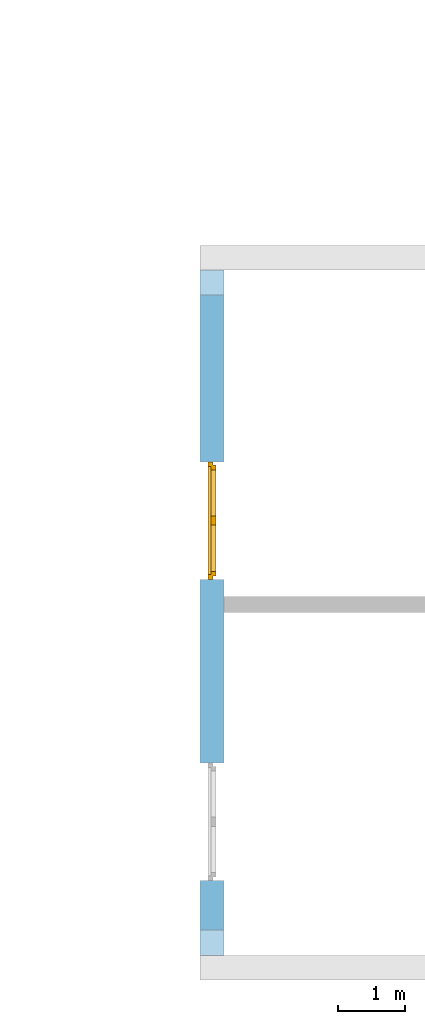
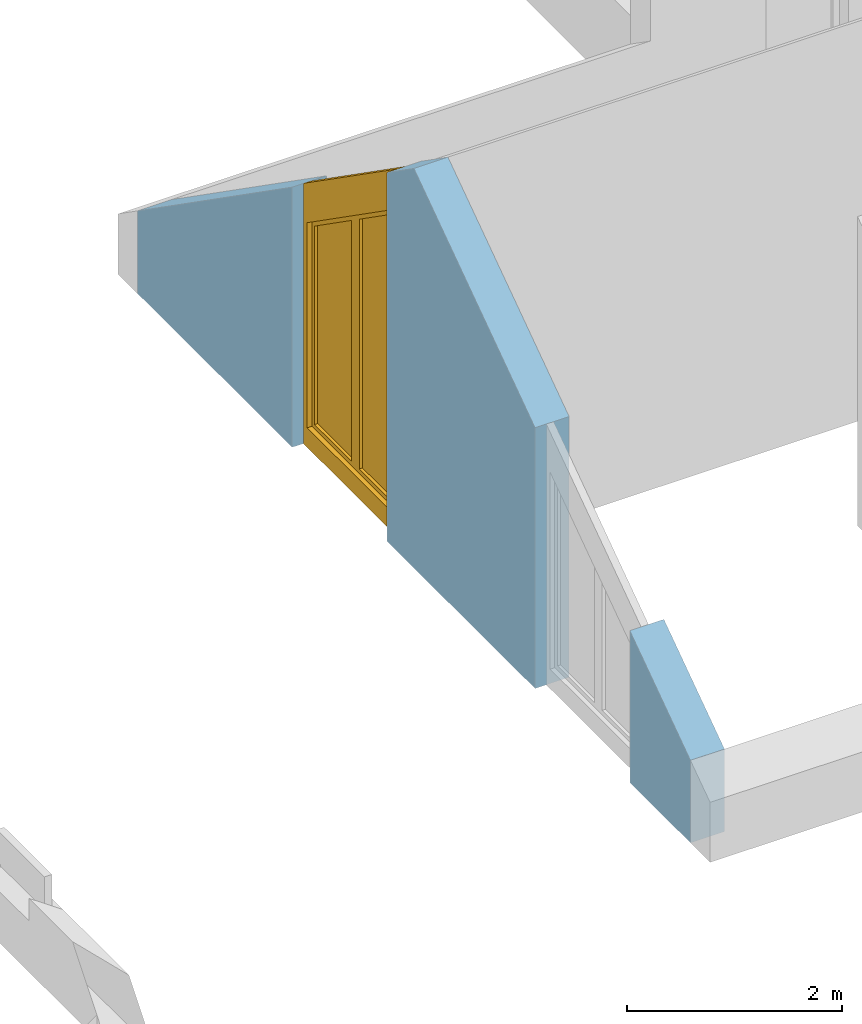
# One storey, part 12 of 23: 1 window, 2 openings, plus 1 element that does not belong to this part.
"""IFC2X3 building model written with IfcOpenShell, lengths in millimetres."""

from ifc_helpers import new_model, entity, si_unit, converted_unit, frame, frame_2d, origin, origin_with_axes, place, context, subcontext, project, spatial, polyline, rectangle, outline, extrude, clip, bounded_halfspace, faceted_brep, material, layer, layer_set, layer_usage, type_object, element, fill, save


model = new_model("IFC2X3")

# Units and contexts
model_context = context("Model", 3, precision=1e-05, world=origin())
body_context = subcontext(model_context, "Body", "Model", "MODEL_VIEW")
ifc_project = project(units=[si_unit("LENGTHUNIT", "METRE", prefix="MILLI"), converted_unit("PLANEANGLEUNIT", "DEGREE", entity("IfcPlaneAngleMeasure", 0.0174532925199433), si_unit("PLANEANGLEUNIT", "RADIAN"), dimensions=[0, 0, 0, 0, 0, 0, 0]), si_unit("AREAUNIT", "SQUARE_METRE"), si_unit("VOLUMEUNIT", "CUBIC_METRE")], contexts=[model_context])

# Building, storey
building_placement = place(None, origin())
building = spatial("IfcBuilding", under=ifc_project, at=building_placement, Name="Gebäude", CompositionType="ELEMENT")
storey_placement = place(building_placement, frame((0.0, 0.0, 5580.0), z_axis=(0.0, 0.0, 1.0), x_axis=(1.0, 0.0, 0.0)))
storey = spatial("IfcBuildingStorey", under=building, at=storey_placement, Name="DG.- Grundriss", CompositionType="ELEMENT", Elevation=5580.0)

# Wall, openings, window
ifc_material_1 = material(Name="Poroton")
ifc_layer = layer(ifc_material_1, 365.0)
ifc_layer_set = layer_set([ifc_layer])
ifc_layer_usage = layer_usage(ifc_layer_set, "AXIS2", "POSITIVE", 0.0)
wall_placement = place(storey_placement, frame((148357.7928067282, 135909.8877324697, 0.0), z_axis=(0.0, 0.0, 1.0), x_axis=(1.70032115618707e-14, -1.0, 0.0)))
wall = element("IfcWallStandardCase", 1, at=wall_placement, inside=storey, material=ifc_layer_usage, Name="<Unnamed Element>", context=body_context, shape_type="Clipping", body=[
    clip(clip(extrude(rectangle(XDim=10269.99999999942, YDim=365.0, at=frame_2d((5134.999999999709, 182.5), x_axis=(1.0, 0.0))), origin_with_axes(), (0.0, 0.0, 1.0), 4531.141460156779), bounded_halfspace(frame((6.206172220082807e-12, 365.0, 935.5757514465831), z_axis=(0.5735764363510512, -1.115129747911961e-14, -0.8191520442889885), x_axis=(-1.70032115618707e-14, -1.0, 0.0)), True, origin(), polyline([(6.206172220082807e-12, 365.0), (0.0, 0.0), (5134.99999999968, 4.911384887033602e-25), (5135.000000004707, 365.0), (6.206172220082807e-12, 365.0)]))), bounded_halfspace(frame((10270.00000000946, 365.0, 935.5757514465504), z_axis=(-0.5735764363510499, 1.578219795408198e-11, -0.8191520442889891), x_axis=(-0.819152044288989, 1.369778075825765e-26, 0.5735764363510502)), True, origin(), polyline([(10270.00000000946, 365.0), (5135.000000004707, 365.0), (5134.99999999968, 4.911384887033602e-25), (10269.99999999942, 0.0), (10270.00000000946, 365.0)]))),
])
opening_1_placement = place(wall_placement, frame((2874.999999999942, -2.54658516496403e-11, 0.0), z_axis=(0.0, 1.0, 0.0), x_axis=(0.0, 0.0, 1.0)))
opening_1 = element("IfcOpeningElement", 2, at=opening_1_placement, cuts=wall, Name="Fensteröffnung", ObjectType="Opening", context=body_context, shape_type="SweptSolid", body=[
    extrude(outline(polyline([(2948.672423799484, 0.0), (0.0, 0.0), (0.0, 1760.0), (4181.037691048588, 1760.0), (2948.672423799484, 0.0)])), origin_with_axes(), (0.0, 0.0, 1.0), 365.0),
])
opening_2_placement = place(wall_placement, frame((7384.999999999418, -9.851646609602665e-11, 0.0), z_axis=(0.0, 1.0, 0.0), x_axis=(0.0, 0.0, 1.0)))
element("IfcOpeningElement", 3, at=opening_2_placement, cuts=wall, Name="Fensteröffnung", ObjectType="Opening", context=body_context, shape_type="SweptSolid", body=[
    extrude(outline(polyline([(2955.674499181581, 0.0), (0.0, 0.0), (0.0, 1760.0), (1723.309231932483, 1760.0), (2955.674499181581, 0.0)])), origin_with_axes(), (0.0, 0.0, 1.0), 365.0),
])
ifc_material_2 = material()
window_style = type_object("IfcWindowStyle", Name="Fenster", ConstructionType="NOTDEFINED", OperationType="USERDEFINED", ParameterTakesPrecedence=False, Sizeable=False)
window_placement = place(opening_1_placement, frame((0.0, 0.0, 0.0), z_axis=(1.0, 0.0, 0.0), x_axis=(0.0, 1.0, 0.0)))
window = element("IfcWindow", 4, at=window_placement, inside=storey, type_object=window_style, material=ifc_material_2, Name="Fenster", OverallHeight=4181.037691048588, OverallWidth=1760.0, context=body_context, shape_type="Brep", body=[
    faceted_brep([(1.355358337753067e-12, 200.0000000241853, -2.449293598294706e-15), (1760.000000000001, 200.0000000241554, -2.449293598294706e-15), (1760.000000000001, 200.0000000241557, 4181.037691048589), (1.35535833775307e-12, 200.0000000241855, 2948.672423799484), (1690.000000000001, 200.0000000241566, 220.0), (70.00000000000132, 200.0000000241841, 220.0), (70.00000000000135, 200.0000000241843, 2546.000353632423), (1690.000000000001, 200.0000000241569, 3680.336565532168), (1760.0, 120.0000000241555, 2.449293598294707e-15), (0.0, 120.0000000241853, 2.449293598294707e-15), (3.129880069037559e-27, 120.0000000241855, 2948.672423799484), (1760.0, 120.0000000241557, 4181.037691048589), (69.99999999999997, 120.0000000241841, 220.0), (1690.0, 120.0000000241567, 220.0), (1690.0, 120.0000000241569, 3680.336565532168), (70.0, 120.0000000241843, 2546.000353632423), (1760.000000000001, 200.0000000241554, -2.449293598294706e-15), (1.355358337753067e-12, 200.0000000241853, -2.449293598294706e-15), (0.0, 120.0000000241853, 2.449293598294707e-15), (1760.0, 120.0000000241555, 2.449293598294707e-15), (1760.000000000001, 200.0000000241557, 4181.037691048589), (1760.000000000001, 200.0000000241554, -2.449293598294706e-15), (1760.0, 120.0000000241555, 2.449293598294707e-15), (1760.0, 120.0000000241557, 4181.037691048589), (1.35535833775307e-12, 200.0000000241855, 2948.672423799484), (1760.000000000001, 200.0000000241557, 4181.037691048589), (1760.0, 120.0000000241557, 4181.037691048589), (3.129880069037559e-27, 120.0000000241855, 2948.672423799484), (1.355358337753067e-12, 200.0000000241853, -2.449293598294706e-15), (1.35535833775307e-12, 200.0000000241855, 2948.672423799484), (3.129880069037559e-27, 120.0000000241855, 2948.672423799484), (0.0, 120.0000000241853, 2.449293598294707e-15), (1690.000000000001, 200.0000000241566, 220.0), (1690.0, 120.0000000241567, 220.0), (69.99999999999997, 120.0000000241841, 220.0), (70.00000000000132, 200.0000000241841, 220.0), (1690.000000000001, 200.0000000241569, 3680.336565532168), (1690.0, 120.0000000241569, 3680.336565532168), (1690.0, 120.0000000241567, 220.0), (1690.000000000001, 200.0000000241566, 220.0), (70.00000000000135, 200.0000000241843, 2546.000353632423), (70.0, 120.0000000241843, 2546.000353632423), (1690.0, 120.0000000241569, 3680.336565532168), (1690.000000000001, 200.0000000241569, 3680.336565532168), (70.00000000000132, 200.0000000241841, 220.0), (69.99999999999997, 120.0000000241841, 220.0), (70.0, 120.0000000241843, 2546.000353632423), (70.00000000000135, 200.0000000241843, 2546.000353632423)], [[[0, 1, 2, 3], [4, 5, 6, 7]], [[8, 9, 10, 11], [12, 13, 14, 15]], [[16, 17, 18, 19]], [[20, 21, 22, 23]], [[24, 25, 26, 27]], [[28, 29, 30, 31]], [[32, 33, 34, 35]], [[36, 37, 38, 39]], [[40, 41, 42, 43]], [[44, 45, 46, 47]]], orient=[[False, False], [False, False], [False], [False], [False], [False], [False], [False], [False], [False]]),
    faceted_brep([(859.5000000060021, 240.0000000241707, 220.0), (859.5000000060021, 240.0000000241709, 3098.814205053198), (70.00000000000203, 240.0000000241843, 2546.000353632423), (70.000000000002, 240.0000000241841, 220.0), (809.5000000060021, 240.0000000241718, 3002.765098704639), (809.5000000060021, 240.0000000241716, 270.0), (120.000000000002, 240.0000000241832, 270.0), (120.000000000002, 240.0000000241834, 2519.972001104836), (859.5000000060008, 170.0000000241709, 3098.814205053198), (859.5000000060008, 170.0000000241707, 220.0), (70.00000000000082, 170.0000000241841, 220.0), (70.00000000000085, 170.0000000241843, 2546.000353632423), (809.5000000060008, 170.0000000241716, 270.0), (809.5000000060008, 170.0000000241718, 3002.765098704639), (120.0000000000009, 170.0000000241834, 2519.972001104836), (120.0000000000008, 170.0000000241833, 270.0), (859.5000000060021, 240.0000000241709, 3098.814205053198), (859.5000000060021, 240.0000000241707, 220.0), (859.5000000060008, 170.0000000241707, 220.0), (859.5000000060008, 170.0000000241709, 3098.814205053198), (70.00000000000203, 240.0000000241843, 2546.000353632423), (859.5000000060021, 240.0000000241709, 3098.814205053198), (859.5000000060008, 170.0000000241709, 3098.814205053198), (70.00000000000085, 170.0000000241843, 2546.000353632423), (70.000000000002, 240.0000000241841, 220.0), (70.00000000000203, 240.0000000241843, 2546.000353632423), (70.00000000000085, 170.0000000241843, 2546.000353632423), (70.00000000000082, 170.0000000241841, 220.0), (859.5000000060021, 240.0000000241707, 220.0), (70.000000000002, 240.0000000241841, 220.0), (70.00000000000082, 170.0000000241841, 220.0), (859.5000000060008, 170.0000000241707, 220.0), (809.5000000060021, 240.0000000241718, 3002.765098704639), (809.5000000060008, 170.0000000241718, 3002.765098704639), (809.5000000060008, 170.0000000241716, 270.0), (809.5000000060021, 240.0000000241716, 270.0), (120.000000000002, 240.0000000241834, 2519.972001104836), (120.0000000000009, 170.0000000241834, 2519.972001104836), (809.5000000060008, 170.0000000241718, 3002.765098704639), (809.5000000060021, 240.0000000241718, 3002.765098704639), (120.000000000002, 240.0000000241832, 270.0), (120.0000000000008, 170.0000000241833, 270.0), (120.0000000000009, 170.0000000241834, 2519.972001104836), (120.000000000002, 240.0000000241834, 2519.972001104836), (809.5000000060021, 240.0000000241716, 270.0), (809.5000000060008, 170.0000000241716, 270.0), (120.0000000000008, 170.0000000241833, 270.0), (120.000000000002, 240.0000000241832, 270.0)], [[[0, 1, 2, 3], [4, 5, 6, 7]], [[8, 9, 10, 11], [12, 13, 14, 15]], [[16, 17, 18, 19]], [[20, 21, 22, 23]], [[24, 25, 26, 27]], [[28, 29, 30, 31]], [[32, 33, 34, 35]], [[36, 37, 38, 39]], [[40, 41, 42, 43]], [[44, 45, 46, 47]]], orient=[[False, False], [False, False], [False], [False], [False], [False], [False], [False], [False], [False]]),
    faceted_brep([(879.5000000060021, 240.0000000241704, 200.0), (879.5000000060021, 240.0000000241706, 3137.233847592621), (50.00000000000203, 240.0000000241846, 2556.411694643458), (50.00000000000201, 240.0000000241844, 200.0), (859.5000000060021, 240.0000000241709, 3098.814205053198), (859.5000000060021, 240.0000000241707, 220.0), (70.000000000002, 240.0000000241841, 220.0), (70.00000000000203, 240.0000000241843, 2546.000353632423), (879.5000000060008, 170.0000000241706, 3137.233847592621), (879.5000000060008, 170.0000000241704, 200.0), (50.00000000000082, 170.0000000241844, 200.0), (50.00000000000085, 170.0000000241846, 2556.411694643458), (859.5000000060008, 170.0000000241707, 220.0), (859.5000000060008, 170.0000000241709, 3098.814205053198), (70.00000000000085, 170.0000000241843, 2546.000353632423), (70.00000000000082, 170.0000000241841, 220.0), (879.5000000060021, 240.0000000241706, 3137.233847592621), (879.5000000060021, 240.0000000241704, 200.0), (879.5000000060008, 170.0000000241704, 200.0), (879.5000000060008, 170.0000000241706, 3137.233847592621), (50.00000000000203, 240.0000000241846, 2556.411694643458), (879.5000000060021, 240.0000000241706, 3137.233847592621), (879.5000000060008, 170.0000000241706, 3137.233847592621), (50.00000000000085, 170.0000000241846, 2556.411694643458), (50.00000000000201, 240.0000000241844, 200.0), (50.00000000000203, 240.0000000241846, 2556.411694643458), (50.00000000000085, 170.0000000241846, 2556.411694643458), (50.00000000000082, 170.0000000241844, 200.0), (879.5000000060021, 240.0000000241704, 200.0), (50.00000000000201, 240.0000000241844, 200.0), (50.00000000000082, 170.0000000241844, 200.0), (879.5000000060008, 170.0000000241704, 200.0), (859.5000000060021, 240.0000000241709, 3098.814205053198), (859.5000000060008, 170.0000000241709, 3098.814205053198), (859.5000000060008, 170.0000000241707, 220.0), (859.5000000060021, 240.0000000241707, 220.0), (70.00000000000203, 240.0000000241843, 2546.000353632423), (70.00000000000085, 170.0000000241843, 2546.000353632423), (859.5000000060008, 170.0000000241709, 3098.814205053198), (859.5000000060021, 240.0000000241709, 3098.814205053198), (70.000000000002, 240.0000000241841, 220.0), (70.00000000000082, 170.0000000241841, 220.0), (70.00000000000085, 170.0000000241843, 2546.000353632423), (70.00000000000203, 240.0000000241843, 2546.000353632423), (859.5000000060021, 240.0000000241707, 220.0), (859.5000000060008, 170.0000000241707, 220.0), (70.00000000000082, 170.0000000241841, 220.0), (70.000000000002, 240.0000000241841, 220.0)], [[[0, 1, 2, 3], [4, 5, 6, 7]], [[8, 9, 10, 11], [12, 13, 14, 15]], [[16, 17, 18, 19]], [[20, 21, 22, 23]], [[24, 25, 26, 27]], [[28, 29, 30, 31]], [[32, 33, 34, 35]], [[36, 37, 38, 39]], [[40, 41, 42, 43]], [[44, 45, 46, 47]]], orient=[[False, False], [False, False], [False], [False], [False], [False], [False], [False], [False], [False]]),
    faceted_brep([(1690.000000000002, 240.0000000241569, 3680.336565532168), (860.500000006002, 240.0000000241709, 3099.514412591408), (860.500000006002, 240.0000000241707, 220.0), (1690.000000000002, 240.0000000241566, 220.0), (950.500000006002, 240.0000000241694, 3101.494361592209), (1640.000000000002, 240.0000000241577, 3584.287459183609), (1640.000000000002, 240.0000000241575, 270.0), (950.500000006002, 240.0000000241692, 270.0), (860.5000000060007, 170.0000000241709, 3099.514412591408), (1690.000000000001, 170.0000000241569, 3680.336565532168), (1690.000000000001, 170.0000000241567, 220.0), (860.5000000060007, 170.0000000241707, 220.0), (1640.000000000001, 170.0000000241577, 3584.287459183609), (950.5000000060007, 170.0000000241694, 3101.494361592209), (950.5000000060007, 170.0000000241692, 270.0), (1640.000000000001, 170.0000000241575, 270.0), (860.500000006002, 240.0000000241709, 3099.514412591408), (1690.000000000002, 240.0000000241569, 3680.336565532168), (1690.000000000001, 170.0000000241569, 3680.336565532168), (860.5000000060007, 170.0000000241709, 3099.514412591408), (860.500000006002, 240.0000000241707, 220.0), (860.500000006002, 240.0000000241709, 3099.514412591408), (860.5000000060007, 170.0000000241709, 3099.514412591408), (860.5000000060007, 170.0000000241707, 220.0), (1690.000000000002, 240.0000000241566, 220.0), (860.500000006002, 240.0000000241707, 220.0), (860.5000000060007, 170.0000000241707, 220.0), (1690.000000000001, 170.0000000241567, 220.0), (1690.000000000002, 240.0000000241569, 3680.336565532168), (1690.000000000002, 240.0000000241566, 220.0), (1690.000000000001, 170.0000000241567, 220.0), (1690.000000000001, 170.0000000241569, 3680.336565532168), (950.500000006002, 240.0000000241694, 3101.494361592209), (950.5000000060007, 170.0000000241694, 3101.494361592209), (1640.000000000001, 170.0000000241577, 3584.287459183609), (1640.000000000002, 240.0000000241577, 3584.287459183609), (950.500000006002, 240.0000000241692, 270.0), (950.5000000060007, 170.0000000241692, 270.0), (950.5000000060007, 170.0000000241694, 3101.494361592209), (950.500000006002, 240.0000000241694, 3101.494361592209), (1640.000000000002, 240.0000000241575, 270.0), (1640.000000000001, 170.0000000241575, 270.0), (950.5000000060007, 170.0000000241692, 270.0), (950.500000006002, 240.0000000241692, 270.0), (1640.000000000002, 240.0000000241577, 3584.287459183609), (1640.000000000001, 170.0000000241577, 3584.287459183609), (1640.000000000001, 170.0000000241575, 270.0), (1640.000000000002, 240.0000000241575, 270.0)], [[[0, 1, 2, 3], [4, 5, 6, 7]], [[8, 9, 10, 11], [12, 13, 14, 15]], [[16, 17, 18, 19]], [[20, 21, 22, 23]], [[24, 25, 26, 27]], [[28, 29, 30, 31]], [[32, 33, 34, 35]], [[36, 37, 38, 39]], [[40, 41, 42, 43]], [[44, 45, 46, 47]]], orient=[[False, False], [False, False], [False], [False], [False], [False], [False], [False], [False], [False]]),
    faceted_brep([(1710.000000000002, 240.0000000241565, 3718.756208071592), (880.500000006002, 240.0000000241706, 3137.934055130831), (880.500000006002, 240.0000000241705, 3113.518563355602), (1690.000000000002, 240.0000000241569, 3680.336565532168), (1690.000000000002, 240.0000000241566, 220.0), (880.500000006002, 240.0000000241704, 220.0), (880.500000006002, 240.0000000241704, 200.0), (1710.000000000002, 240.0000000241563, 200.0), (880.5000000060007, 170.0000000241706, 3137.934055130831), (1710.000000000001, 170.0000000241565, 3718.756208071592), (1710.000000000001, 170.0000000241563, 200.0), (880.5000000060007, 170.0000000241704, 200.0), (880.5000000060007, 170.0000000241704, 220.0), (1690.000000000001, 170.0000000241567, 220.0), (1690.000000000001, 170.0000000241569, 3680.336565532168), (880.5000000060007, 170.0000000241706, 3113.518563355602), (880.500000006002, 240.0000000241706, 3137.934055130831), (1710.000000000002, 240.0000000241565, 3718.756208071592), (1710.000000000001, 170.0000000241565, 3718.756208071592), (880.5000000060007, 170.0000000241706, 3137.934055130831), (880.500000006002, 240.0000000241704, 200.0), (880.500000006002, 240.0000000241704, 220.0), (880.5000000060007, 170.0000000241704, 220.0), (880.5000000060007, 170.0000000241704, 200.0), (880.5000000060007, 170.0000000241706, 3113.518563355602), (880.500000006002, 240.0000000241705, 3113.518563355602), (880.500000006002, 240.0000000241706, 3137.934055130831), (880.5000000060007, 170.0000000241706, 3137.934055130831), (1710.000000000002, 240.0000000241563, 200.0), (880.500000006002, 240.0000000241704, 200.0), (880.5000000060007, 170.0000000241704, 200.0), (1710.000000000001, 170.0000000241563, 200.0), (1710.000000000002, 240.0000000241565, 3718.756208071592), (1710.000000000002, 240.0000000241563, 200.0), (1710.000000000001, 170.0000000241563, 200.0), (1710.000000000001, 170.0000000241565, 3718.756208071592), (880.500000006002, 240.0000000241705, 3113.518563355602), (880.5000000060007, 170.0000000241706, 3113.518563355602), (1690.000000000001, 170.0000000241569, 3680.336565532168), (1690.000000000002, 240.0000000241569, 3680.336565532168), (1690.000000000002, 240.0000000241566, 220.0), (1690.000000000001, 170.0000000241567, 220.0), (880.5000000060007, 170.0000000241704, 220.0), (880.500000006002, 240.0000000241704, 220.0), (1690.000000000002, 240.0000000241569, 3680.336565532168), (1690.000000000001, 170.0000000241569, 3680.336565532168), (1690.000000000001, 170.0000000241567, 220.0), (1690.000000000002, 240.0000000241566, 220.0)], [[[0, 1, 2, 3, 4, 5, 6, 7]], [[8, 9, 10, 11, 12, 13, 14, 15]], [[16, 17, 18, 19]], [[20, 21, 22, 23]], [[24, 25, 26, 27]], [[28, 29, 30, 31]], [[32, 33, 34, 35]], [[36, 37, 38, 39]], [[40, 41, 42, 43]], [[44, 45, 46, 47]]], orient=[[False], [False], [False], [False], [False], [False], [False], [False], [False], [False]]),
    faceted_brep([(809.5000000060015, 205.0000000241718, 3002.765098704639), (120.0000000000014, 205.0000000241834, 2519.972001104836), (120.0000000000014, 205.0000000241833, 270.0), (809.5000000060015, 205.0000000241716, 270.0), (809.5000000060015, 204.0000000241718, 3002.765098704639), (809.5000000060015, 204.0000000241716, 270.0), (120.0000000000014, 204.0000000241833, 270.0), (120.0000000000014, 204.0000000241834, 2519.972001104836), (809.5000000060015, 205.0000000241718, 3002.765098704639), (809.5000000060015, 204.0000000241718, 3002.765098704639), (120.0000000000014, 204.0000000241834, 2519.972001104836), (120.0000000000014, 205.0000000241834, 2519.972001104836), (120.0000000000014, 205.0000000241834, 2519.972001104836), (120.0000000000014, 204.0000000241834, 2519.972001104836), (120.0000000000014, 204.0000000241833, 270.0), (120.0000000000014, 205.0000000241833, 270.0), (120.0000000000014, 205.0000000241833, 270.0), (120.0000000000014, 204.0000000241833, 270.0), (809.5000000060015, 204.0000000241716, 270.0), (809.5000000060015, 205.0000000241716, 270.0), (809.5000000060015, 205.0000000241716, 270.0), (809.5000000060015, 204.0000000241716, 270.0), (809.5000000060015, 204.0000000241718, 3002.765098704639), (809.5000000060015, 205.0000000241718, 3002.765098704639)], [[[0, 1, 2, 3]], [[4, 5, 6, 7]], [[8, 9, 10, 11]], [[12, 13, 14, 15]], [[16, 17, 18, 19]], [[20, 21, 22, 23]]], orient=[[False], [False], [False], [False], [False], [False]]),
    faceted_brep([(950.5000000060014, 205.0000000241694, 3101.494361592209), (950.5000000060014, 205.0000000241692, 270.0), (1640.000000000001, 205.0000000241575, 270.0), (1640.000000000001, 205.0000000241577, 3584.287459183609), (950.5000000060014, 204.0000000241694, 3101.494361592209), (1640.000000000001, 204.0000000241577, 3584.287459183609), (1640.000000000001, 204.0000000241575, 270.0), (950.5000000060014, 204.0000000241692, 270.0), (950.5000000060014, 205.0000000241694, 3101.494361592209), (950.5000000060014, 204.0000000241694, 3101.494361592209), (950.5000000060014, 204.0000000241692, 270.0), (950.5000000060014, 205.0000000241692, 270.0), (950.5000000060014, 205.0000000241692, 270.0), (950.5000000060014, 204.0000000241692, 270.0), (1640.000000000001, 204.0000000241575, 270.0), (1640.000000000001, 205.0000000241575, 270.0), (1640.000000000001, 205.0000000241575, 270.0), (1640.000000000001, 204.0000000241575, 270.0), (1640.000000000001, 204.0000000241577, 3584.287459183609), (1640.000000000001, 205.0000000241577, 3584.287459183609), (1640.000000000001, 205.0000000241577, 3584.287459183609), (1640.000000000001, 204.0000000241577, 3584.287459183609), (950.5000000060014, 204.0000000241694, 3101.494361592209), (950.5000000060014, 205.0000000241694, 3101.494361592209)], [[[0, 1, 2, 3]], [[4, 5, 6, 7]], [[8, 9, 10, 11]], [[12, 13, 14, 15]], [[16, 17, 18, 19]], [[20, 21, 22, 23]]], orient=[[False], [False], [False], [False], [False], [False]]),
])
fill(opening_1, window)

save(model, "model.ifc")
